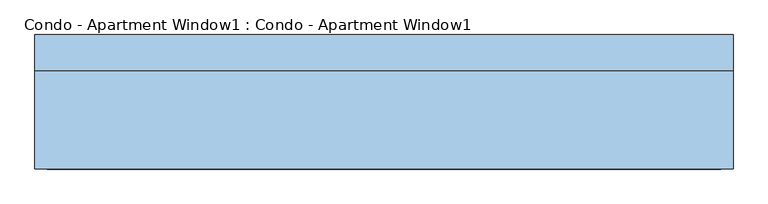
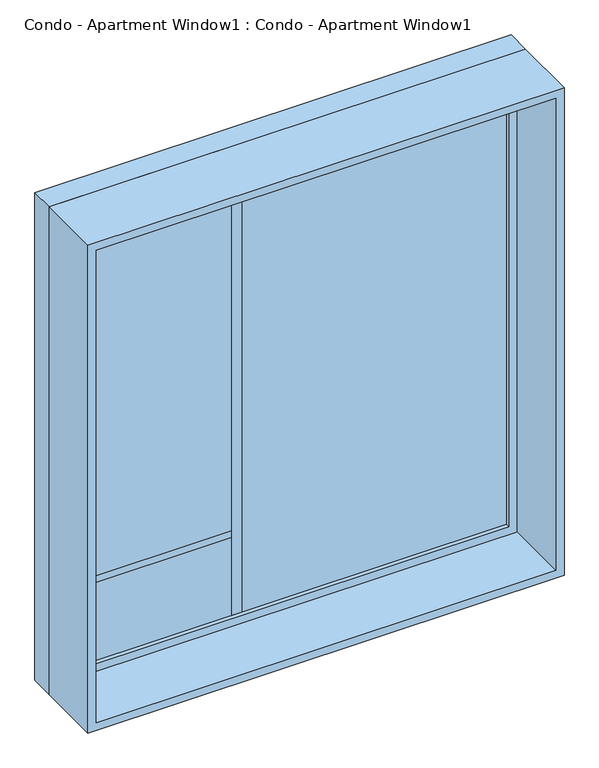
"""IFC4 building model written with IfcOpenShell, lengths in millimetres: window geometry, Condo - Apartment Window1 : Condo - Apartment Window1."""

from ifc_helpers import new_model, si_unit, frame, origin, place, context, project, spatial, polyline, outline, extrude, source, transform, mapped, element, save


def condo_apartment_window1_condo_apartment_window1_8ec80de7(model_context):
    return source(origin(), model_context, "Body", "SweptSolid", [
        extrude(outline(polyline([(-241.3, 122.2375), (-203.2, 122.2375), (-203.2, 96.8375), (-241.3, 96.8375), (-241.3, 122.2375)])), frame((0.0, 0.0, 965.2), z_axis=(0.0, 0.0, 1.0), x_axis=(1.0, 0.0, 0.0)), (0.0, 0.0, 1.0), 1854.2),
        extrude(outline(polyline([(-889.0, 122.2375), (-241.3, 122.2375), (-241.3, 96.8375), (-889.0, 96.8375), (-889.0, 122.2375)])), frame((0.0, 0.0, 1282.7), z_axis=(0.0, 0.0, 1.0), x_axis=(1.0, 0.0, 0.0)), (0.0, 0.0, 1.0), 25.4),
        extrude(outline(polyline([(812.8, 96.8375), (-889.0, 96.8375), (-889.0, 109.5375), (812.8, 109.5375), (812.8, 96.8375)])), frame((0.0, 0.0, 965.2), z_axis=(0.0, 0.0, 1.0), x_axis=(1.0, 0.0, 0.0)), (0.0, 0.0, 1.0), 1854.2),
        extrude(outline(polyline([(2863.85, -933.45), (920.75, -933.45), (920.75, 857.25), (2863.85, 857.25), (2863.85, -933.45)]), holes=[polyline([(2819.4, -889.0), (2819.4, 812.8), (965.2, 812.8), (965.2, -889.0), (2819.4, -889.0)])]), frame((0.0, 80.9625, 0.0), z_axis=(0.0, 1.0, 0.0), x_axis=(0.0, 0.0, 1.0)), (0.0, 0.0, 1.0), 44.45),
        extrude(outline(polyline([(2882.9, -952.5), (901.7, -952.5), (901.7, 876.3), (2882.9, 876.3), (2882.9, -952.5)]), holes=[polyline([(2851.15, -920.75), (2851.15, 844.55), (933.45, 844.55), (933.45, -920.75), (2851.15, -920.75)])]), frame((0.0, -176.2125, 0.0), z_axis=(0.0, 1.0, 0.0), x_axis=(0.0, 0.0, 1.0)), (0.0, 0.0, 1.0), 257.175),
        extrude(outline(polyline([(2882.9, 876.3), (2882.9, -952.5), (901.7, -952.5), (901.7, 876.3), (2882.9, 876.3)]), holes=[polyline([(2863.85, 857.25), (920.75, 857.25), (920.75, -933.45), (2863.85, -933.45), (2863.85, 857.25)])]), frame((0.0, 80.9625, 0.0), z_axis=(0.0, 1.0, 0.0), x_axis=(0.0, 0.0, 1.0)), (0.0, 0.0, 1.0), 95.25),
    ])


if __name__ == "__main__":
    model = new_model("IFC4")
    model_context = context("Model", 3, world=origin())
    ifc_project = project(units=[si_unit("LENGTHUNIT", "METRE", prefix="MILLI")], contexts=[model_context])
    site = spatial("IfcSite", under=ifc_project)
    building = spatial("IfcBuilding", under=site)
    placement = place(None, origin())
    condo_apartment_window1_condo_apartment_window1_shape = condo_apartment_window1_condo_apartment_window1_8ec80de7(model_context)
    element("IfcWindow", 1, ObjectType="Condo - Apartment Window1 : Condo - Apartment Window1", at=placement, inside=building, context=model_context, shape_type="MappedRepresentation", body=[
        mapped(condo_apartment_window1_condo_apartment_window1_shape, transform((0.0, 0.0, 0.0), x_axis=(1.0, 0.0, 0.0), y_axis=(0.0, 1.0, 0.0), z_axis=(0.0, 0.0, 1.0))),
    ])
    save(model, "model.ifc")
